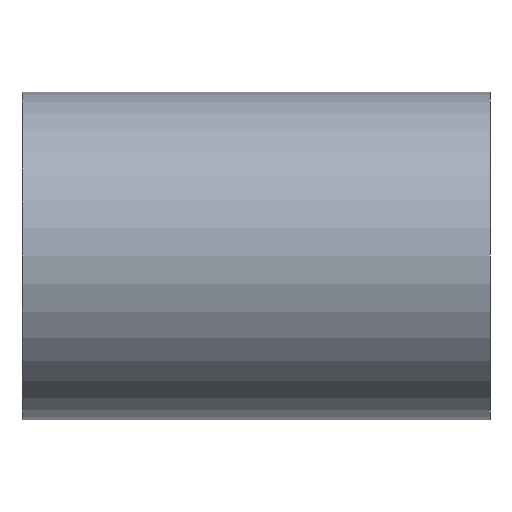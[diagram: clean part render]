
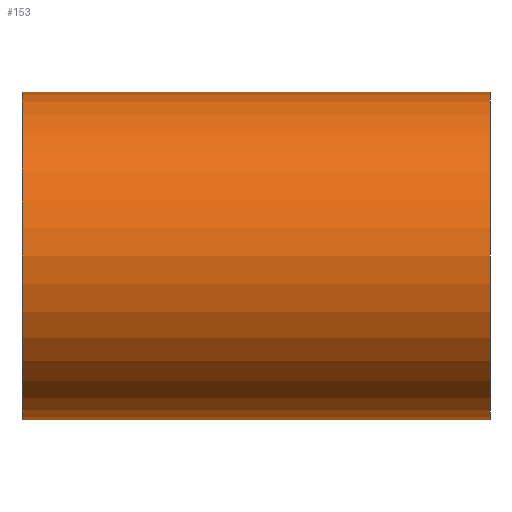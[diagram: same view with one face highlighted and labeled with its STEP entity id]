
A CAD part, left-side view. The second image highlights one B-rep face of the part: STEP entity #153.
In plain terms, the highlighted cylindrical face has radius 3.5 mm (diameter 7 mm), a partial arc.
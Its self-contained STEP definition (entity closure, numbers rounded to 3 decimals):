
#3 = AXIS2_PLACEMENT_3D ( 'NONE', #139, #145, #73 ) ;
#21 = AXIS2_PLACEMENT_3D ( 'NONE', #76, #75, #74 ) ;
#27 = AXIS2_PLACEMENT_3D ( 'NONE', #141, #140, #138 ) ;
#31 = EDGE_CURVE ( 'NONE', #169, #183, #195, .T. ) ;
#33 = EDGE_CURVE ( 'NONE', #172, #183, #185, .T. ) ;
#39 = EDGE_CURVE ( 'NONE', #180, #172, #175, .T. ) ;
#40 = EDGE_CURVE ( 'NONE', #180, #169, #63, .T. ) ;
#55 = CYLINDRICAL_SURFACE ( 'NONE', #3, 3.5 ) ;
#62 = VECTOR ( 'NONE', #82, 1000. ) ;
#63 = LINE ( 'NONE', #83, #62 ) ;
#64 = FACE_OUTER_BOUND ( 'NONE', #208, .T. ) ;
#73 = DIRECTION ( 'NONE',  ( 0., 0., -1. ) ) ;
#74 = DIRECTION ( 'NONE',  ( 0., 0., 1. ) ) ;
#75 = DIRECTION ( 'NONE',  ( 0., 1., 0. ) ) ;
#76 = CARTESIAN_POINT ( 'NONE',  ( 0., 10., 0. ) ) ;
#82 = DIRECTION ( 'NONE',  ( 0., -1., 0. ) ) ;
#83 = CARTESIAN_POINT ( 'NONE',  ( 0., 10., -3.5 ) ) ;
#115 = CARTESIAN_POINT ( 'NONE',  ( 0., 0., 3.5 ) ) ;
#116 = CARTESIAN_POINT ( 'NONE',  ( 0., 10., -3.5 ) ) ;
#119 = CARTESIAN_POINT ( 'NONE',  ( 0., 10., 3.5 ) ) ;
#121 = CARTESIAN_POINT ( 'NONE',  ( 0., 0., -3.5 ) ) ;
#137 = DIRECTION ( 'NONE',  ( 0., -1., 0. ) ) ;
#138 = DIRECTION ( 'NONE',  ( 0., 0., 1. ) ) ;
#139 = CARTESIAN_POINT ( 'NONE',  ( 0., 10., 0. ) ) ;
#140 = DIRECTION ( 'NONE',  ( 0., 1., 0. ) ) ;
#141 = CARTESIAN_POINT ( 'NONE',  ( 0., 0., 0. ) ) ;
#143 = CARTESIAN_POINT ( 'NONE',  ( 0., 10., 3.5 ) ) ;
#145 = DIRECTION ( 'NONE',  ( 0., -1., 0. ) ) ;
#153 = ADVANCED_FACE ( 'NONE', ( #64 ), #55, .T. ) ;
#160 = ORIENTED_EDGE ( 'NONE', *, *, #33, .F. ) ;
#168 = ORIENTED_EDGE ( 'NONE', *, *, #39, .F. ) ;
#169 = VERTEX_POINT ( 'NONE', #121 ) ;
#172 = VERTEX_POINT ( 'NONE', #119 ) ;
#175 = CIRCLE ( 'NONE', #21, 3.5 ) ;
#180 = VERTEX_POINT ( 'NONE', #116 ) ;
#183 = VERTEX_POINT ( 'NONE', #115 ) ;
#185 = LINE ( 'NONE', #143, #189 ) ;
#189 = VECTOR ( 'NONE', #137, 1000. ) ;
#195 = CIRCLE ( 'NONE', #27, 3.5 ) ;
#201 = ORIENTED_EDGE ( 'NONE', *, *, #40, .T. ) ;
#208 = EDGE_LOOP ( 'NONE', ( #160, #168, #201, #209 ) ) ;
#209 = ORIENTED_EDGE ( 'NONE', *, *, #31, .T. ) ;
